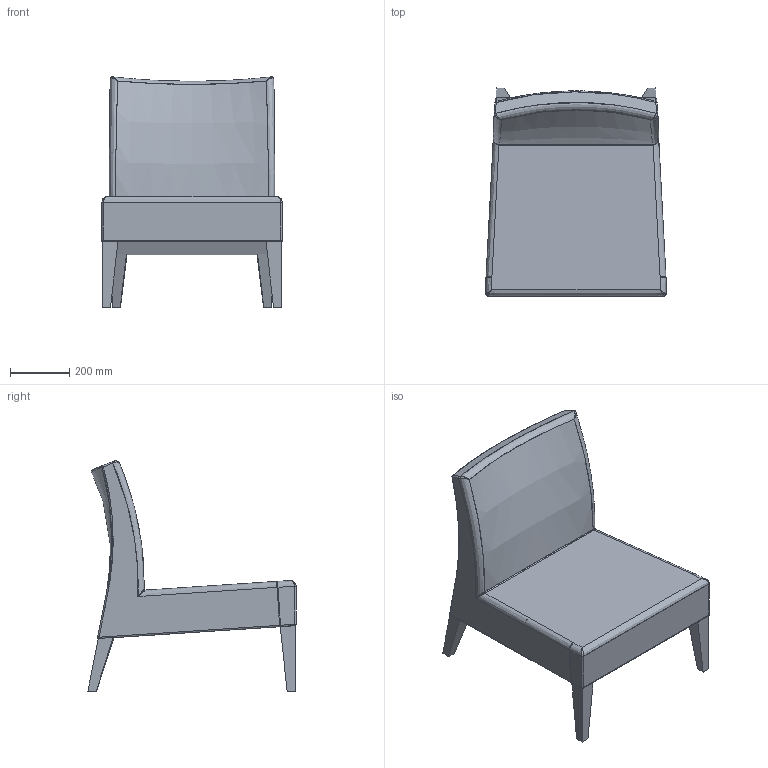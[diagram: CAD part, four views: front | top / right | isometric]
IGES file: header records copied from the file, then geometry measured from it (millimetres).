
Start section: SolidWorks IGES file using analytic representation for surfaces
Global section: file name: C:\Users\Adao\Documents\Trab Adao\Desenho técnico PRODUÇÃO\J M S\CASSIS\POLTRONAS\M290\M-290 M292 (3D)\POLTRONA CASSIS M-290.IGS; native system: SolidWorks 2012; preprocessor: SolidWorks 2012; author: Adao; date: 121220.095622; units: millimetre
Bounding box: 606 x 700.9 x 775.32 mm (x, y, z)
Surface area: 1764230 mm2 (no closed solid volume)
Topology: 0 solids, 0 shells, 113 faces, 1094 edges, 1084 vertices
Faces by surface type: bspline 73, revolution 40
